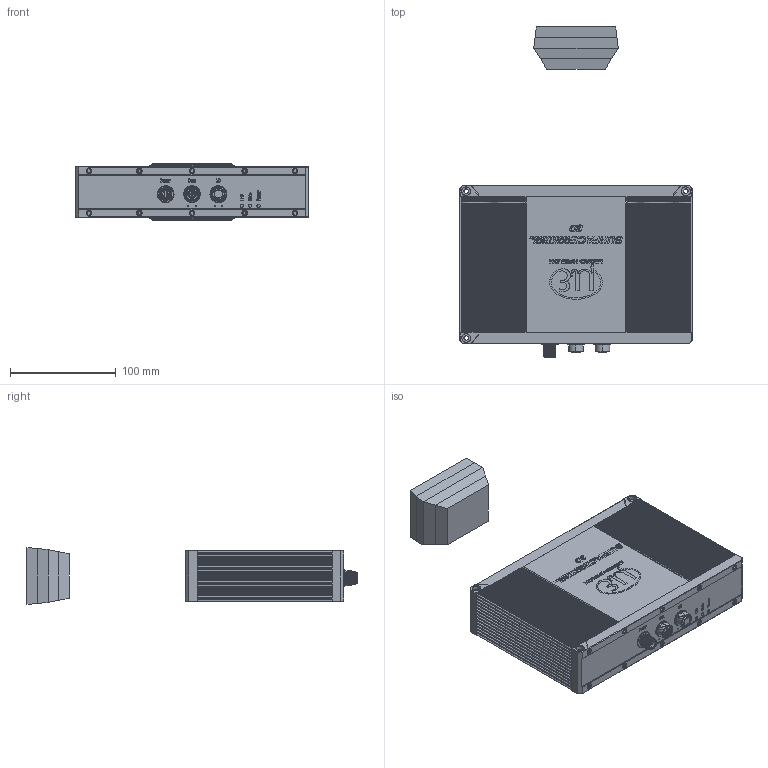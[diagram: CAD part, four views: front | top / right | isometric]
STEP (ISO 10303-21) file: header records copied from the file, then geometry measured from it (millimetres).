
FILE_DESCRIPTION((''),'2;1');
FILE_NAME('0000303447_ASM','2022-01-19T09:34:38',('pdmservice'),(''),'CREO PARAMETRIC BY PTC INC, 2018420','CREO PARAMETRIC BY PTC INC, 2018420','');
FILE_SCHEMA(('AUTOMOTIVE_DESIGN { 1 0 10303 214 1 1 1 1 }'));
Products named in the file (4): 0000335208_PRT; 0000303516_PRT; 0000343620_PRT; 0000303447_ASM
Assembly tree (3 placements, depth 2):
  0000303447_ASM
    0000335208_PRT
    0000303516_PRT
    0000343620_PRT
Bounding box: 220 x 312.5 x 54 mm (x, y, z)
Volume: 1658930.5 mm3; surface area: 195762.4 mm2
Topology: 5 solids, 9 shells, 4301 faces, 11359 edges, 7340 vertices
Faces by surface type: plane 1757, cylinder 1543, extrusion 727, torus 127, cone 102, bspline 35, sphere 10
Entity records: 198180 total; most frequent: CARTESIAN_POINT 69083, ORIENTED_EDGE 22714, DIRECTION 21142, EDGE_CURVE 11357, AXIS2_PLACEMENT_3D 7352, VERTEX_POINT 7340, VECTOR 6438, LINE 5711
